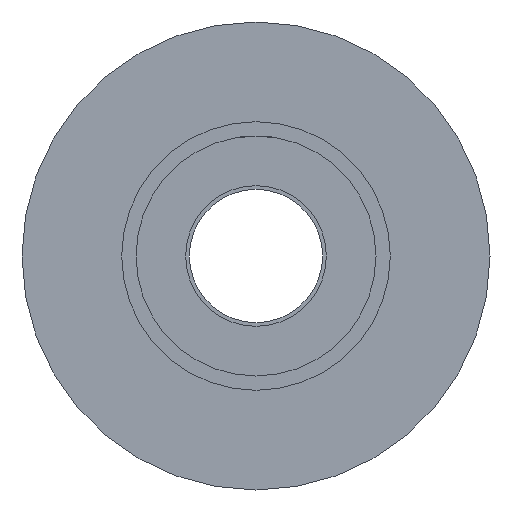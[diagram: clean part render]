
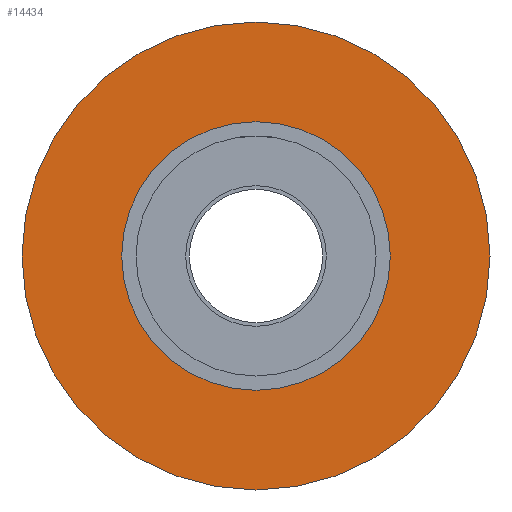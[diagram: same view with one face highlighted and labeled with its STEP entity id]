
A CAD part, front view. The second image highlights one B-rep face of the part: STEP entity #14434.
In plain terms, the highlighted planar face has unit normal (0, -1, 0).
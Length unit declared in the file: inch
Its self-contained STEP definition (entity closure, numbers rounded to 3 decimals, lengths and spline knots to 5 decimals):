
#14400=CARTESIAN_POINT('',(9.98031,10.55118,0.0));
#14401=VERTEX_POINT('',#14400);
#14402=CARTESIAN_POINT('',(0.0,10.55118,0.0));
#14403=DIRECTION('',(0.0,-1.0,0.0));
#14404=DIRECTION('',(1.0,0.0,0.0));
#14405=AXIS2_PLACEMENT_3D('',#14402,#14403,#14404);
#14406=CIRCLE('',#14405,9.98031);
#14407=EDGE_CURVE('',#14401,#14401,#14406,.T.);
#14415=CARTESIAN_POINT('',(7.85433,10.55118,0.0));
#14416=DIRECTION('',(0.0,-1.0,0.0));
#14417=DIRECTION('',(0.0,0.0,-1.0));
#14418=AXIS2_PLACEMENT_3D('',#14415,#14416,#14417);
#14419=PLANE('',#14418);
#14420=ORIENTED_EDGE('',*,*,#14407,.T.);
#14421=EDGE_LOOP('',(#14420));
#14422=FACE_OUTER_BOUND('',#14421,.T.);
#14423=CARTESIAN_POINT('',(5.72835,10.55118,0.0));
#14424=VERTEX_POINT('',#14423);
#14425=CARTESIAN_POINT('',(0.0,10.55118,0.0));
#14426=DIRECTION('',(0.0,-1.0,0.0));
#14427=DIRECTION('',(1.0,0.0,0.0));
#14428=AXIS2_PLACEMENT_3D('',#14425,#14426,#14427);
#14429=CIRCLE('',#14428,5.72835);
#14430=EDGE_CURVE('',#14424,#14424,#14429,.T.);
#14431=ORIENTED_EDGE('',*,*,#14430,.F.);
#14432=EDGE_LOOP('',(#14431));
#14433=FACE_BOUND('',#14432,.T.);
#14434=ADVANCED_FACE('',(#14422,#14433),#14419,.T.);
